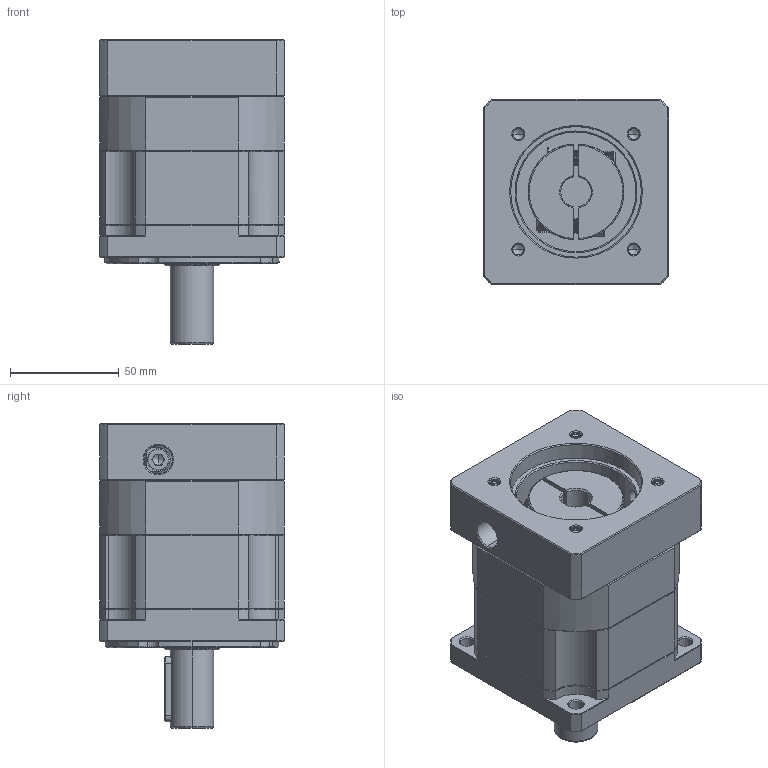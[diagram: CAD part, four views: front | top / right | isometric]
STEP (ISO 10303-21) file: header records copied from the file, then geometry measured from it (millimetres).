
FILE_DESCRIPTION (( 'STEP AP214' ), '1' );
FILE_NAME ('ZB090-D20-L1-P2-14-60-75-M6.step', '2023-08-18T12:08:48', ( '' ), ( '' ), 'SwSTEP 2.0', 'SolidWorks 2016', '' );
FILE_SCHEMA (( 'AUTOMOTIVE_DESIGN' ));
Length unit declared in the file: millimetre
Products named in the file (1): ZB090-D20-L1-P2-14-60-75-M6
Bounding box: 85 x 85 x 140 mm (x, y, z)
Volume: 618322.3 mm3; surface area: 85994.3 mm2
Topology: 4 solids, 5 shells, 2228 faces, 5900 edges, 3757 vertices
Faces by surface type: plane 1062, cylinder 400, bspline 397, cone 342, torus 27
Entity records: 120888 total; most frequent: CARTESIAN_POINT 44561, ORIENTED_EDGE 11756, DIRECTION 9208, EDGE_CURVE 5878, VERTEX_POINT 3757, LINE 3724, VECTOR 3724, AXIS2_PLACEMENT_3D 2742
